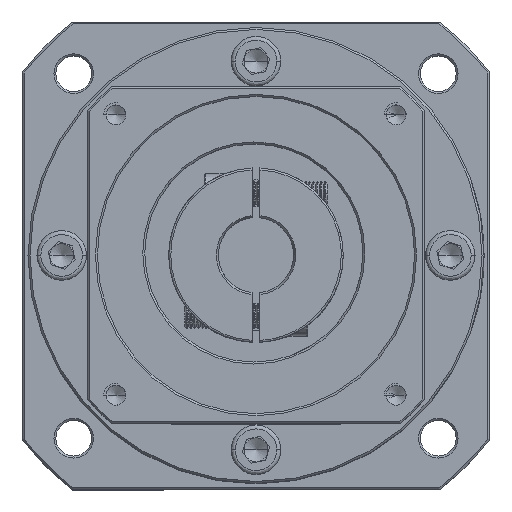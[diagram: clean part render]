
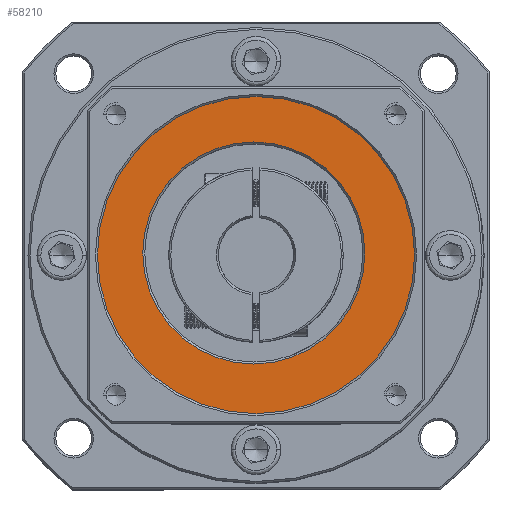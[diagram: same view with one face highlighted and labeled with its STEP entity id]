
A CAD part, top view. The second image highlights one B-rep face of the part: STEP entity #58210.
In plain terms, the highlighted planar face has unit normal (0, 0, 1).
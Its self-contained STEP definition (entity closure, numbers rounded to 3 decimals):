
#3656 = VERTEX_POINT ( 'NONE', #41763 ) ;
#7080 = AXIS2_PLACEMENT_3D ( 'NONE', #70179, #20447, #78542 ) ;
#10279 = ORIENTED_EDGE ( 'NONE', *, *, #20757, .T. ) ;
#13541 = CARTESIAN_POINT ( 'NONE',  ( -132.92, 50.383, 42.838 ) ) ;
#17410 = EDGE_LOOP ( 'NONE', ( #43449, #55674 ) ) ;
#19838 = AXIS2_PLACEMENT_3D ( 'NONE', #31527, #89617, #39876 ) ;
#20447 = DIRECTION ( 'NONE',  ( 0., 0., 1. ) ) ;
#20757 = EDGE_CURVE ( 'NONE', #96514, #69609, #33224, .T. ) ;
#28978 = CARTESIAN_POINT ( 'NONE',  ( -104.379, 49.849, 42.838 ) ) ;
#31527 = CARTESIAN_POINT ( 'NONE',  ( -104.379, 49.849, 42.838 ) ) ;
#31903 = EDGE_CURVE ( 'NONE', #34126, #3656, #47743, .T. ) ;
#33224 = CIRCLE ( 'NONE', #98193, 28. ) ;
#34126 = VERTEX_POINT ( 'NONE', #45692 ) ;
#36100 = CIRCLE ( 'NONE', #67159, 28. ) ;
#37392 = DIRECTION ( 'NONE',  ( 1., 0., 0. ) ) ;
#39036 = CIRCLE ( 'NONE', #19838, 40. ) ;
#39876 = DIRECTION ( 'NONE',  ( 1., 0., 0. ) ) ;
#41484 = DIRECTION ( 'NONE',  ( 0., 0., -1. ) ) ;
#41763 = CARTESIAN_POINT ( 'NONE',  ( -144.379, 49.849, 42.838 ) ) ;
#43449 = ORIENTED_EDGE ( 'NONE', *, *, #31903, .T. ) ;
#45583 = EDGE_CURVE ( 'NONE', #3656, #34126, #39036, .T. ) ;
#45692 = CARTESIAN_POINT ( 'NONE',  ( -64.379, 49.849, 42.838 ) ) ;
#47153 = ORIENTED_EDGE ( 'NONE', *, *, #77569, .T. ) ;
#47743 = CIRCLE ( 'NONE', #7080, 40. ) ;
#49258 = CARTESIAN_POINT ( 'NONE',  ( -104.92, 50.383, 42.838 ) ) ;
#52879 = EDGE_LOOP ( 'NONE', ( #47153, #10279 ) ) ;
#55674 = ORIENTED_EDGE ( 'NONE', *, *, #45583, .T. ) ;
#56196 = AXIS2_PLACEMENT_3D ( 'NONE', #28978, #87115, #37392 ) ;
#57625 = DIRECTION ( 'NONE',  ( 1., 0., 0. ) ) ;
#58210 = ADVANCED_FACE ( 'NONE', ( #59615, #62232 ), #103466, .T. ) ;
#59615 = FACE_OUTER_BOUND ( 'NONE', #17410, .T. ) ;
#62232 = FACE_BOUND ( 'NONE', #52879, .T. ) ;
#67159 = AXIS2_PLACEMENT_3D ( 'NONE', #91197, #41484, #99606 ) ;
#69609 = VERTEX_POINT ( 'NONE', #88951 ) ;
#70179 = CARTESIAN_POINT ( 'NONE',  ( -104.379, 49.849, 42.838 ) ) ;
#77569 = EDGE_CURVE ( 'NONE', #69609, #96514, #36100, .T. ) ;
#78542 = DIRECTION ( 'NONE',  ( 1., 0., 0. ) ) ;
#87115 = DIRECTION ( 'NONE',  ( 0., 0., 1. ) ) ;
#88951 = CARTESIAN_POINT ( 'NONE',  ( -76.92, 50.383, 42.838 ) ) ;
#89617 = DIRECTION ( 'NONE',  ( 0., 0., 1. ) ) ;
#91197 = CARTESIAN_POINT ( 'NONE',  ( -104.92, 50.383, 42.838 ) ) ;
#96514 = VERTEX_POINT ( 'NONE', #13541 ) ;
#98193 = AXIS2_PLACEMENT_3D ( 'NONE', #49258, #107378, #57625 ) ;
#99606 = DIRECTION ( 'NONE',  ( 1., 0., 0. ) ) ;
#103466 = PLANE ( 'NONE',  #56196 ) ;
#107378 = DIRECTION ( 'NONE',  ( 0., 0., -1. ) ) ;
